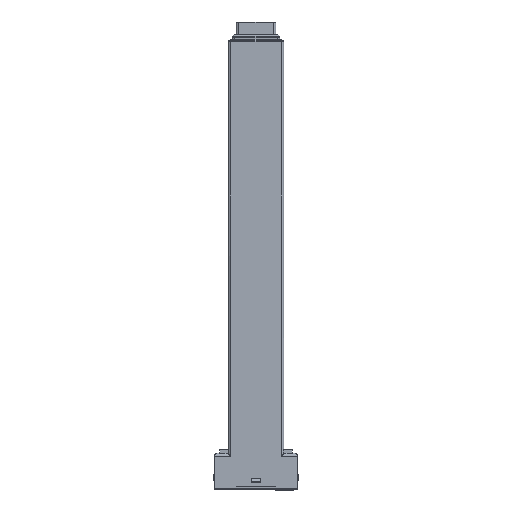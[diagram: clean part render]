
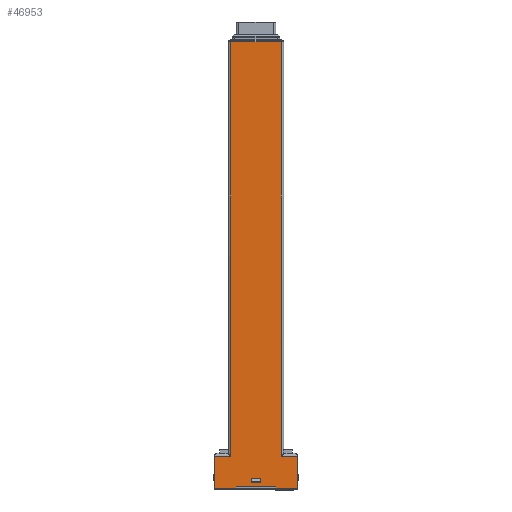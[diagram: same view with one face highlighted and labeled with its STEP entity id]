
A CAD part, left-side view. The second image highlights one B-rep face of the part: STEP entity #46953.
In plain terms, the highlighted planar face has unit normal (-1, 0, 0).
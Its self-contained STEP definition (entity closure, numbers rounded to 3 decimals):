
#138 = VERTEX_POINT ( 'NONE', #34714 ) ;
#404 = LINE ( 'NONE', #23705, #43098 ) ;
#634 = DIRECTION ( 'NONE',  ( 0., 1., 0. ) ) ;
#748 = ORIENTED_EDGE ( 'NONE', *, *, #48508, .F. ) ;
#1006 = EDGE_CURVE ( 'NONE', #21892, #42885, #24639, .T. ) ;
#1973 = CARTESIAN_POINT ( 'NONE',  ( -98.396, 53.559, 326.511 ) ) ;
#2343 = VERTEX_POINT ( 'NONE', #53444 ) ;
#2629 = EDGE_CURVE ( 'NONE', #36319, #19287, #50909, .T. ) ;
#2979 = VECTOR ( 'NONE', #12485, 1000. ) ;
#3636 = EDGE_LOOP ( 'NONE', ( #42432, #52705, #8732, #748 ) ) ;
#3856 = VECTOR ( 'NONE', #6902, 1000. ) ;
#4426 = DIRECTION ( 'NONE',  ( 0., 1., 0. ) ) ;
#4794 = VECTOR ( 'NONE', #16008, 1000. ) ;
#4818 = CARTESIAN_POINT ( 'NONE',  ( -98.396, 33.059, 849.011 ) ) ;
#5084 = EDGE_CURVE ( 'NONE', #36319, #42885, #22933, .T. ) ;
#5167 = CARTESIAN_POINT ( 'NONE',  ( -98.396, -51.441, 326.511 ) ) ;
#5588 = LINE ( 'NONE', #8292, #2979 ) ;
#5620 = DIRECTION ( 'NONE',  ( 0., -1., 0. ) ) ;
#5847 = CARTESIAN_POINT ( 'NONE',  ( -98.396, -51.441, 326.511 ) ) ;
#5959 = DIRECTION ( 'NONE',  ( 0., 0., 1. ) ) ;
#6902 = DIRECTION ( 'NONE',  ( 0., 0., -1. ) ) ;
#7089 = LINE ( 'NONE', #23263, #3856 ) ;
#7150 = CARTESIAN_POINT ( 'NONE',  ( -98.396, -30.941, 849.011 ) ) ;
#7580 = VERTEX_POINT ( 'NONE', #27176 ) ;
#8015 = ORIENTED_EDGE ( 'NONE', *, *, #34040, .T. ) ;
#8292 = CARTESIAN_POINT ( 'NONE',  ( -98.396, -51.441, 326.511 ) ) ;
#8363 = LINE ( 'NONE', #51159, #36867 ) ;
#8727 = VECTOR ( 'NONE', #46424, 1000. ) ;
#8732 = ORIENTED_EDGE ( 'NONE', *, *, #17895, .F. ) ;
#8733 = ORIENTED_EDGE ( 'NONE', *, *, #2629, .F. ) ;
#9892 = VECTOR ( 'NONE', #49451, 1000. ) ;
#10719 = VECTOR ( 'NONE', #28827, 1000. ) ;
#12485 = DIRECTION ( 'NONE',  ( 0., 0., 1. ) ) ;
#13860 = VECTOR ( 'NONE', #34774, 1000. ) ;
#14892 = VERTEX_POINT ( 'NONE', #30511 ) ;
#15177 = EDGE_LOOP ( 'NONE', ( #22696, #21026, #52371, #16628, #32450, #8733, #17713, #36331, #16749, #43502, #20014, #8015 ) ) ;
#15819 = CARTESIAN_POINT ( 'NONE',  ( -98.396, -23.941, 326.511 ) ) ;
#16008 = DIRECTION ( 'NONE',  ( 0., 0., -1. ) ) ;
#16554 = VECTOR ( 'NONE', #26264, 1000. ) ;
#16628 = ORIENTED_EDGE ( 'NONE', *, *, #20136, .T. ) ;
#16691 = CARTESIAN_POINT ( 'NONE',  ( -98.396, -30.941, -499672.489 ) ) ;
#16749 = ORIENTED_EDGE ( 'NONE', *, *, #48862, .F. ) ;
#16808 = VECTOR ( 'NONE', #5959, 1000. ) ;
#17251 = VERTEX_POINT ( 'NONE', #42003 ) ;
#17515 = LINE ( 'NONE', #19590, #20116 ) ;
#17713 = ORIENTED_EDGE ( 'NONE', *, *, #5084, .T. ) ;
#17895 = EDGE_CURVE ( 'NONE', #28348, #17251, #8363, .T. ) ;
#17933 = CARTESIAN_POINT ( 'NONE',  ( -98.396, 33.059, -499672.489 ) ) ;
#18425 = LINE ( 'NONE', #15819, #4794 ) ;
#19287 = VERTEX_POINT ( 'NONE', #4818 ) ;
#19411 = LINE ( 'NONE', #32060, #35571 ) ;
#19590 = CARTESIAN_POINT ( 'NONE',  ( -98.396, -4.941, 299.011 ) ) ;
#20014 = ORIENTED_EDGE ( 'NONE', *, *, #36866, .F. ) ;
#20048 = CARTESIAN_POINT ( 'NONE',  ( -98.396, -51.441, 286.011 ) ) ;
#20116 = VECTOR ( 'NONE', #23975, 1000. ) ;
#20136 = EDGE_CURVE ( 'NONE', #7580, #45294, #26946, .T. ) ;
#20612 = VERTEX_POINT ( 'NONE', #32549 ) ;
#21026 = ORIENTED_EDGE ( 'NONE', *, *, #32612, .T. ) ;
#21116 = DIRECTION ( 'NONE',  ( 1., 0., 0. ) ) ;
#21707 = VERTEX_POINT ( 'NONE', #50157 ) ;
#21749 = CARTESIAN_POINT ( 'NONE',  ( -98.396, -30.941, 849.011 ) ) ;
#21892 = VERTEX_POINT ( 'NONE', #27219 ) ;
#22696 = ORIENTED_EDGE ( 'NONE', *, *, #46916, .F. ) ;
#22933 = LINE ( 'NONE', #5847, #13860 ) ;
#23263 = CARTESIAN_POINT ( 'NONE',  ( -98.396, 7.059, 293.011 ) ) ;
#23705 = CARTESIAN_POINT ( 'NONE',  ( -98.396, -51.441, 326.511 ) ) ;
#23975 = DIRECTION ( 'NONE',  ( 0., 0., 1. ) ) ;
#23976 = EDGE_CURVE ( 'NONE', #21707, #33638, #50551, .T. ) ;
#24153 = CARTESIAN_POINT ( 'NONE',  ( -98.396, 53.559, 326.511 ) ) ;
#24639 = LINE ( 'NONE', #1973, #16808 ) ;
#26264 = DIRECTION ( 'NONE',  ( 0., -1., 0. ) ) ;
#26422 = VERTEX_POINT ( 'NONE', #5167 ) ;
#26932 = AXIS2_PLACEMENT_3D ( 'NONE', #45859, #21116, #4426 ) ;
#26946 = LINE ( 'NONE', #16691, #10719 ) ;
#27176 = CARTESIAN_POINT ( 'NONE',  ( -98.396, -30.941, 326.511 ) ) ;
#27219 = CARTESIAN_POINT ( 'NONE',  ( -98.396, 53.559, 286.011 ) ) ;
#27936 = EDGE_CURVE ( 'NONE', #2343, #36980, #45632, .T. ) ;
#28348 = VERTEX_POINT ( 'NONE', #53028 ) ;
#28799 = CARTESIAN_POINT ( 'NONE',  ( -98.396, 7.059, 299.011 ) ) ;
#28827 = DIRECTION ( 'NONE',  ( 0., 0., 1. ) ) ;
#29490 = DIRECTION ( 'NONE',  ( 0., 0., 1. ) ) ;
#30511 = CARTESIAN_POINT ( 'NONE',  ( -98.396, -23.941, 286.011 ) ) ;
#31406 = CARTESIAN_POINT ( 'NONE',  ( -98.396, 26.059, 288.011 ) ) ;
#32060 = CARTESIAN_POINT ( 'NONE',  ( -98.396, -23.941, 288.011 ) ) ;
#32450 = ORIENTED_EDGE ( 'NONE', *, *, #44573, .F. ) ;
#32549 = CARTESIAN_POINT ( 'NONE',  ( -98.396, -51.441, 286.011 ) ) ;
#32612 = EDGE_CURVE ( 'NONE', #20612, #26422, #5588, .T. ) ;
#32843 = EDGE_CURVE ( 'NONE', #26422, #7580, #404, .T. ) ;
#33638 = VERTEX_POINT ( 'NONE', #31406 ) ;
#34040 = EDGE_CURVE ( 'NONE', #138, #14892, #18425, .T. ) ;
#34714 = CARTESIAN_POINT ( 'NONE',  ( -98.396, -23.941, 288.011 ) ) ;
#34774 = DIRECTION ( 'NONE',  ( 0., 1., 0. ) ) ;
#35224 = DIRECTION ( 'NONE',  ( 0., 1., 0. ) ) ;
#35571 = VECTOR ( 'NONE', #40689, 1000. ) ;
#36319 = VERTEX_POINT ( 'NONE', #48184 ) ;
#36331 = ORIENTED_EDGE ( 'NONE', *, *, #1006, .F. ) ;
#36866 = EDGE_CURVE ( 'NONE', #138, #33638, #19411, .T. ) ;
#36867 = VECTOR ( 'NONE', #5620, 1000. ) ;
#36980 = VERTEX_POINT ( 'NONE', #28799 ) ;
#37698 = CARTESIAN_POINT ( 'NONE',  ( -98.396, -51.441, 286.011 ) ) ;
#38871 = DIRECTION ( 'NONE',  ( 0., 0., 1. ) ) ;
#39926 = VECTOR ( 'NONE', #38871, 1000. ) ;
#40689 = DIRECTION ( 'NONE',  ( 0., 1., 0. ) ) ;
#40722 = LINE ( 'NONE', #37698, #51708 ) ;
#41326 = PLANE ( 'NONE',  #26932 ) ;
#41372 = CARTESIAN_POINT ( 'NONE',  ( -98.396, 26.059, 326.511 ) ) ;
#41893 = CARTESIAN_POINT ( 'NONE',  ( -98.396, 7.059, 299.011 ) ) ;
#42003 = CARTESIAN_POINT ( 'NONE',  ( -98.396, -4.941, 293.011 ) ) ;
#42432 = ORIENTED_EDGE ( 'NONE', *, *, #27936, .F. ) ;
#42885 = VERTEX_POINT ( 'NONE', #24153 ) ;
#43098 = VECTOR ( 'NONE', #35224, 1000. ) ;
#43502 = ORIENTED_EDGE ( 'NONE', *, *, #23976, .T. ) ;
#44573 = EDGE_CURVE ( 'NONE', #19287, #45294, #48841, .T. ) ;
#45294 = VERTEX_POINT ( 'NONE', #7150 ) ;
#45632 = LINE ( 'NONE', #41893, #8727 ) ;
#45859 = CARTESIAN_POINT ( 'NONE',  ( -98.396, -51.441, 326.511 ) ) ;
#46424 = DIRECTION ( 'NONE',  ( 0., 1., 0. ) ) ;
#46794 = FACE_OUTER_BOUND ( 'NONE', #15177, .T. ) ;
#46916 = EDGE_CURVE ( 'NONE', #20612, #14892, #51287, .T. ) ;
#46953 = ADVANCED_FACE ( 'NONE', ( #48085, #46794 ), #41326, .F. ) ;
#48085 = FACE_BOUND ( 'NONE', #3636, .T. ) ;
#48184 = CARTESIAN_POINT ( 'NONE',  ( -98.396, 33.059, 326.511 ) ) ;
#48508 = EDGE_CURVE ( 'NONE', #36980, #28348, #7089, .T. ) ;
#48578 = EDGE_CURVE ( 'NONE', #17251, #2343, #17515, .T. ) ;
#48841 = LINE ( 'NONE', #21749, #16554 ) ;
#48862 = EDGE_CURVE ( 'NONE', #21707, #21892, #40722, .T. ) ;
#49451 = DIRECTION ( 'NONE',  ( 0., 1., 0. ) ) ;
#50157 = CARTESIAN_POINT ( 'NONE',  ( -98.396, 26.059, 286.011 ) ) ;
#50551 = LINE ( 'NONE', #41372, #52489 ) ;
#50909 = LINE ( 'NONE', #17933, #39926 ) ;
#51159 = CARTESIAN_POINT ( 'NONE',  ( -98.396, -4.941, 293.011 ) ) ;
#51287 = LINE ( 'NONE', #20048, #9892 ) ;
#51708 = VECTOR ( 'NONE', #634, 1000. ) ;
#52371 = ORIENTED_EDGE ( 'NONE', *, *, #32843, .T. ) ;
#52489 = VECTOR ( 'NONE', #29490, 1000. ) ;
#52705 = ORIENTED_EDGE ( 'NONE', *, *, #48578, .F. ) ;
#53028 = CARTESIAN_POINT ( 'NONE',  ( -98.396, 7.059, 293.011 ) ) ;
#53444 = CARTESIAN_POINT ( 'NONE',  ( -98.396, -4.941, 299.011 ) ) ;
